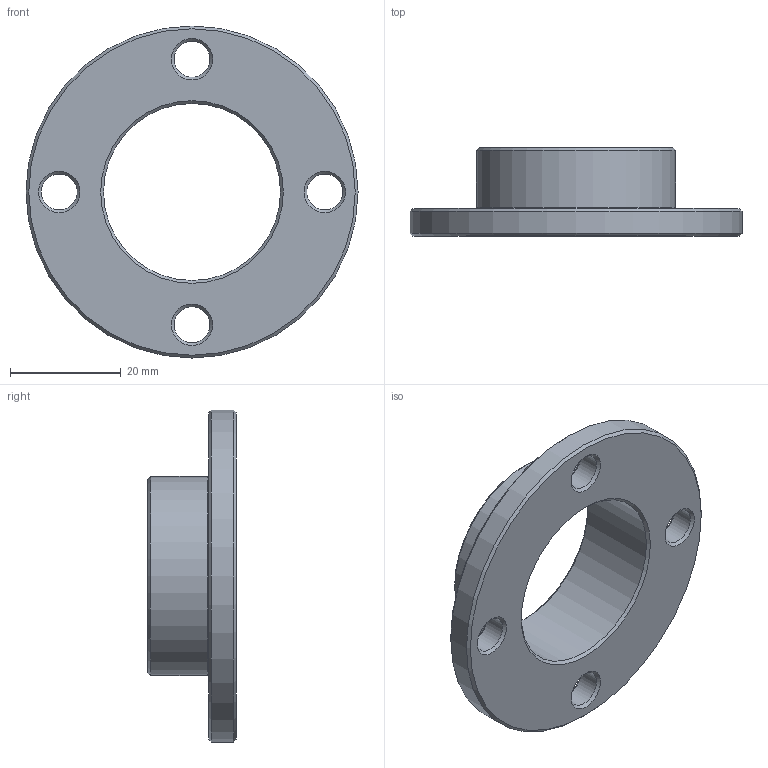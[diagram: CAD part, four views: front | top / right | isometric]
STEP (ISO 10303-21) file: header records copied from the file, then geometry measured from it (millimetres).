
FILE_DESCRIPTION(/* description */ (''),/* implementation_level */ '2;1');
FILE_NAME(/* name */ 'C:\Users\Nick_2\Dropbox\WG Projekte\Kamp und Kötter\Artikel\Lagerhülse 20mm\02_STEP-Dateien\LH20-LL.stp',/* time_stamp */ '2016-02-02T18:47:26+01:00',/* author */ ('Nick_2'),/* organization */ (''),/* preprocessor_version */ 'ST-DEVELOPER v15.6',/* originating_system */ 'Autodesk Inventor 2015',/* authorisation */ '');
FILE_SCHEMA (('AUTOMOTIVE_DESIGN { 1 0 10303 214 3 1 1 }'));
Length unit declared in the file: millimetre
Products named in the file (1): LH20-LL
Bounding box: 60 x 16 x 60 mm (x, y, z)
Volume: 11695.4 mm3; surface area: 7726.7 mm2
Topology: 1 solids, 1 shells, 24 faces, 53 edges, 32 vertices
Faces by surface type: cone 13, cylinder 7, plane 3, torus 1
Full cylindrical faces by diameter (mm): 6.5 x4, 32 x1, 36 x1, 60 x1
Entity records: 568 total; most frequent: DIRECTION 106, CARTESIAN_POINT 81, EDGE_LOOP 56, ORIENTED_EDGE 56, AXIS2_PLACEMENT_3D 53, FACE_BOUND 32, CIRCLE 28, VERTEX_POINT 28
